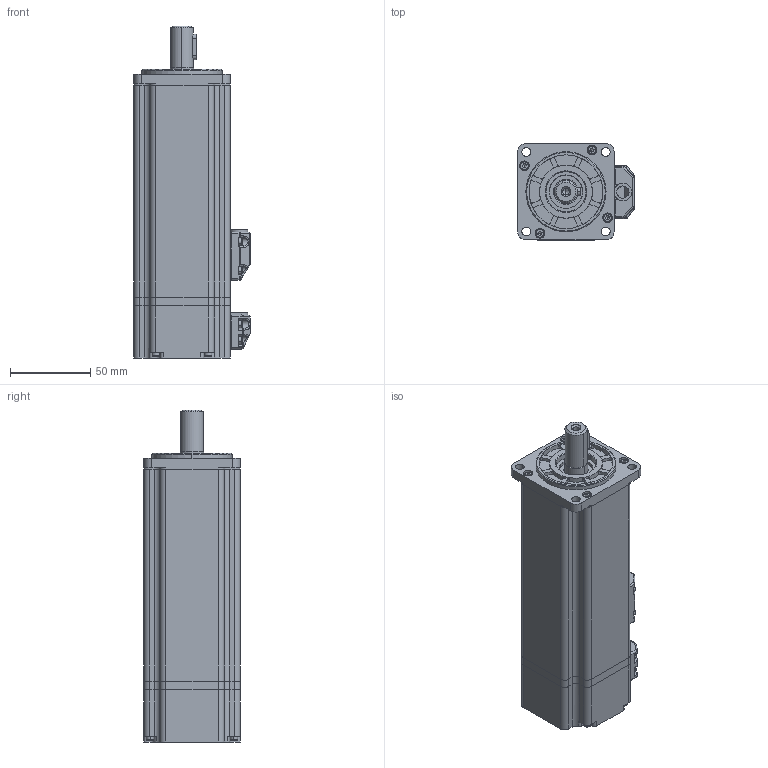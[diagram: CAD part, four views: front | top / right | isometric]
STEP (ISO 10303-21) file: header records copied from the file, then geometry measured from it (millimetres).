
FILE_DESCRIPTION (( 'STEP AP203' ), '1' );
FILE_NAME ('淕儂蚾饜.STEP', '2020-04-01T08:53:51', ( 'admin' ), ( '' ), 'SwSTEP 2.0', 'SolidWorks 2016', '' );
FILE_SCHEMA (( 'CONFIG_CONTROL_DESIGN' ));
Length unit declared in the file: millimetre
Products named in the file (1): 淕儂蚾饜
Bounding box: 72.5 x 60 x 207 mm (x, y, z)
Volume: 210936.8 mm3; surface area: 126612.4 mm2
Topology: 28 solids, 28 shells, 1591 faces, 4258 edges, 2664 vertices
Faces by surface type: cylinder 659, plane 594, cone 150, torus 94, sphere 70, bspline 24
Entity records: 52676 total; most frequent: CARTESIAN_POINT 13050, DIRECTION 8629, ORIENTED_EDGE 8156, EDGE_CURVE 4078, AXIS2_PLACEMENT_3D 3359, VERTEX_POINT 2600, LINE 1911, VECTOR 1911
